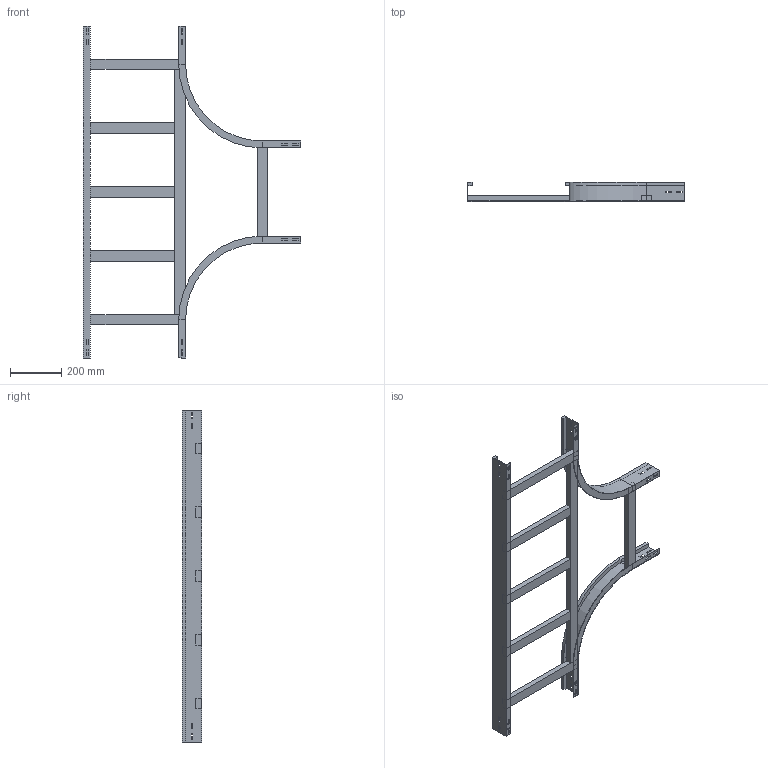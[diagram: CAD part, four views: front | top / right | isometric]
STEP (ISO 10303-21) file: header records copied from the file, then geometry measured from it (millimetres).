
FILE_DESCRIPTION (( 'STEP AP214' ), '1' );
FILE_NAME ('A2_15B3C400.step', '2025-02-21T15:53:11', ( '' ), ( '' ), 'SwSTEP 2.0', 'SolidWorks 2023', '' );
FILE_SCHEMA (( 'AUTOMOTIVE_DESIGN' ));
Length unit declared in the file: millimetre
Products named in the file (6): TRAVERSINO_INTERMEDIO_R300+400; A2_TRAVERSINO_LONG._R300+400; A2_LONGH.INTERNO 90°_H75_R300; A2_15B3C400; TRAVERSINO_400; A2_LONGH.RETT_H75_R300+400
Assembly tree (10 placements, depth 2):
  A2_15B3C400
    A2_LONGH.INTERNO 90°_H75_R300  x2
    A2_LONGH.RETT_H75_R300+400
    TRAVERSINO_400  x3
    A2_TRAVERSINO_LONG._R300+400
    TRAVERSINO_INTERMEDIO_R300+400  x3
Bounding box: 850 x 75 x 1300 mm (x, y, z)
Volume: 3718980 mm3; surface area: 1073329.8 mm2
Topology: 10 solids, 10 shells, 200 faces, 508 edges, 328 vertices
Faces by surface type: plane 192, cylinder 8
Entity records: 3823 total; most frequent: CARTESIAN_POINT 639, ORIENTED_EDGE 616, DIRECTION 578, EDGE_CURVE 308, LINE 300, VECTOR 300, VERTEX_POINT 200, EDGE_LOOP 150
